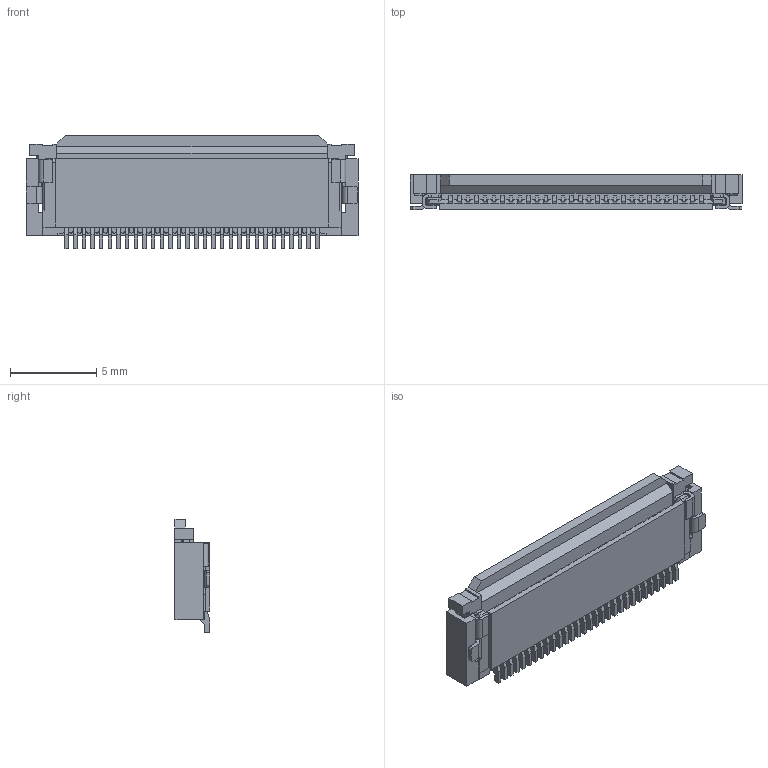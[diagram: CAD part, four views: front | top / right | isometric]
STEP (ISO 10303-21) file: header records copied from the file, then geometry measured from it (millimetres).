
FILE_DESCRIPTION((''),'2;1');
FILE_NAME('S-52561-030','2022-04-22T',('k41758'),(''),'PRO/ENGINEER BY PARAMETRIC TECHNOLOGY CORPORATION, 2009360','PRO/ENGINEER BY PARAMETRIC TECHNOLOGY CORPORATION, 2009360','');
FILE_SCHEMA(('CONFIG_CONTROL_DESIGN'));
Products named in the file (1): S-52561-030
Bounding box: 19.2 x 2.03 x 6.55 mm (x, y, z)
Volume: 131 mm3; surface area: 722.8 mm2
Topology: 1 solids, 1 shells, 2160 faces, 6805 edges, 4623 vertices
Faces by surface type: plane 1551, cylinder 609
Entity records: 75293 total; most frequent: CARTESIAN_POINT 13491, ORIENTED_EDGE 13354, DIRECTION 12475, EDGE_CURVE 6677, VECTOR 5443, LINE 5443, VERTEX_POINT 4487, AXIS2_PLACEMENT_3D 3516
